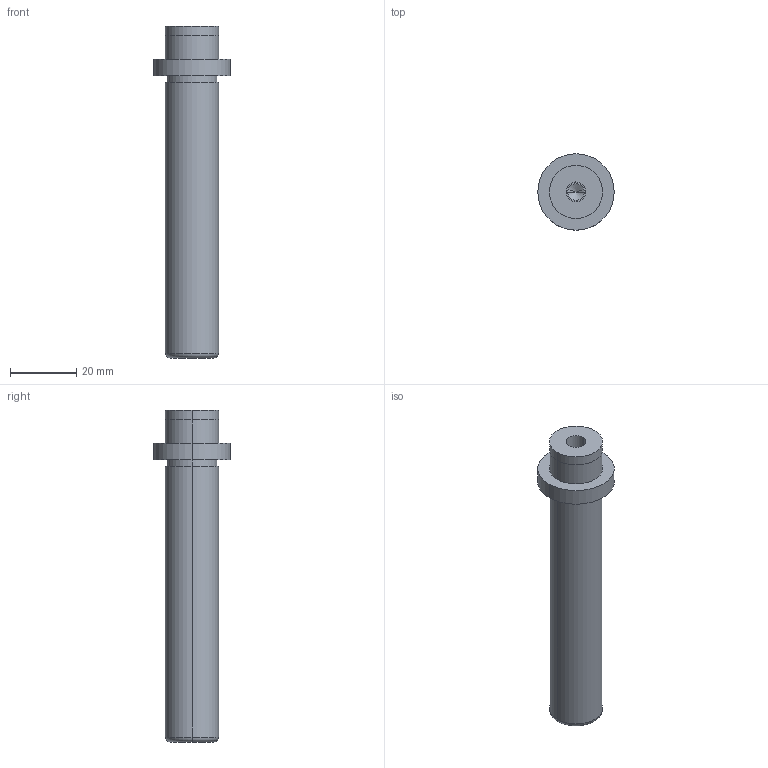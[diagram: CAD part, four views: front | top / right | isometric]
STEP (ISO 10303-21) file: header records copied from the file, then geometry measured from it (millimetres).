
FILE_DESCRIPTION(/* description */ (''),/* implementation_level */ '2;1');
FILE_NAME(/* name */ '3d_sgpr16-90_00291_r00.stp',/* time_stamp */ '2011-01-10T14:11:06+09:00',/* author */ ('MISUMI'),/* organization */ (''),/* preprocessor_version */ 'ST-DEVELOPER v11',/* originating_system */ 'UGS - NX 5.0',/* authorisation */ '');
FILE_SCHEMA (('CONFIG_CONTROL_DESIGN'));
Length unit declared in the file: millimetre
Products named in the file (1): 3d_sgpr16-90_00291_r00
Bounding box: 23 x 23 x 100 mm (x, y, z)
Volume: 20613.8 mm3; surface area: 6309.4 mm2
Topology: 1 solids, 1 shells, 24 faces, 48 edges, 29 vertices
Faces by surface type: cylinder 14, plane 6, cone 2, torus 2
Entity records: 706 total; most frequent: DIRECTION 126, CARTESIAN_POINT 100, ORIENTED_EDGE 92, AXIS2_PLACEMENT_3D 55, EDGE_CURVE 46, CIRCLE 30, EDGE_LOOP 29, VERTEX_POINT 29
